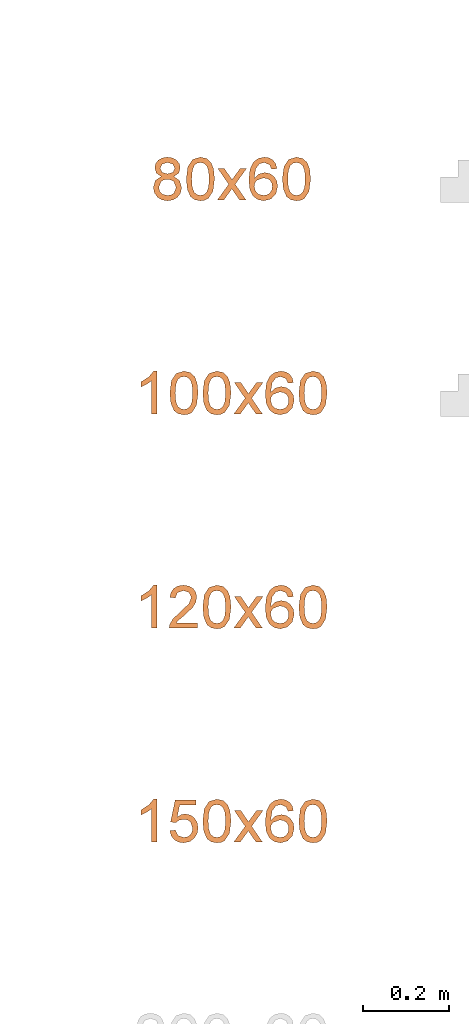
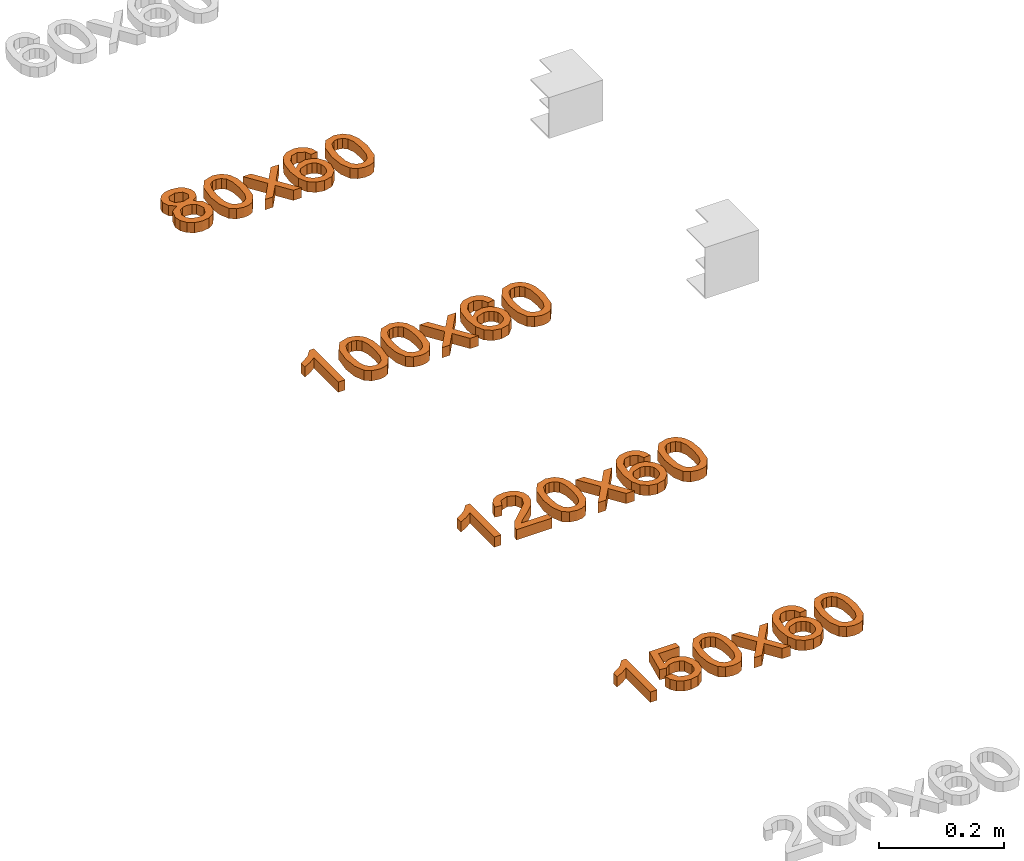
# One storey, part 45 of 71: 4 proxies.
"""IFC2X3 building model written with IfcOpenShell, lengths in millimetres."""

from ifc_helpers import new_model, entity, si_unit, converted_unit, derived_unit, direction, frame, origin, place, context, subcontext, project, spatial, polyline, outline, extrude, element, save


model = new_model("IFC2X3")

# Units and contexts
model_context = context("Model", 3, precision=0.01, world=origin(), true_north=direction((6.12303176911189e-17, 1.0)))
body_context = subcontext(model_context, "Body", "Model", "MODEL_VIEW")
ifc_project = project(units=[si_unit("LENGTHUNIT", "METRE", prefix="MILLI"), si_unit("AREAUNIT", "SQUARE_METRE"), si_unit("VOLUMEUNIT", "CUBIC_METRE"), converted_unit("PLANEANGLEUNIT", "DEGREE", entity("IfcRatioMeasure", 0.0174532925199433), si_unit("PLANEANGLEUNIT", "RADIAN"), dimensions=[0, 0, 0, 0, 0, 0, 0]), si_unit("MASSUNIT", "GRAM", prefix="KILO"), derived_unit("MASSDENSITYUNIT", [(si_unit("MASSUNIT", "GRAM", prefix="KILO"), 1), (si_unit("LENGTHUNIT", "METRE"), -3)]), si_unit("TIMEUNIT", "SECOND"), si_unit("FREQUENCYUNIT", "HERTZ"), si_unit("THERMODYNAMICTEMPERATUREUNIT", "DEGREE_CELSIUS"), derived_unit("THERMALTRANSMITTANCEUNIT", [(si_unit("MASSUNIT", "GRAM", prefix="KILO"), 1), (si_unit("THERMODYNAMICTEMPERATUREUNIT", "KELVIN"), -1), (si_unit("TIMEUNIT", "SECOND"), -3)]), derived_unit("VOLUMETRICFLOWRATEUNIT", [(si_unit("LENGTHUNIT", "METRE"), 3), (si_unit("TIMEUNIT", "SECOND"), -1)]), si_unit("ELECTRICCURRENTUNIT", "AMPERE"), si_unit("ELECTRICVOLTAGEUNIT", "VOLT"), si_unit("POWERUNIT", "WATT"), si_unit("FORCEUNIT", "NEWTON", prefix="KILO"), si_unit("ILLUMINANCEUNIT", "LUX"), si_unit("LUMINOUSFLUXUNIT", "LUMEN"), si_unit("LUMINOUSINTENSITYUNIT", "CANDELA"), derived_unit("USERDEFINED", [(si_unit("MASSUNIT", "GRAM", prefix="KILO"), -1), (si_unit("LENGTHUNIT", "METRE"), -2), (si_unit("TIMEUNIT", "SECOND"), 3), (si_unit("LUMINOUSFLUXUNIT", "LUMEN"), 1)]), derived_unit("LINEARVELOCITYUNIT", [(si_unit("LENGTHUNIT", "METRE"), 1), (si_unit("TIMEUNIT", "SECOND"), -1)]), si_unit("PRESSUREUNIT", "PASCAL"), derived_unit("USERDEFINED", [(si_unit("LENGTHUNIT", "METRE"), -2), (si_unit("MASSUNIT", "GRAM", prefix="KILO"), 1), (si_unit("TIMEUNIT", "SECOND"), -2)])], contexts=[model_context])

# Site, building, storey
site_placement = place(None, origin())
site = spatial("IfcSite", under=ifc_project, at=site_placement, Name="Default", CompositionType="ELEMENT")
building_placement = place(site_placement, origin())
building = spatial("IfcBuilding", under=site, at=building_placement, Name="Наименование здания", CompositionType="ELEMENT")
storey_placement = place(building_placement, origin())
storey = spatial("IfcBuildingStorey", under=building, at=storey_placement, Name="Этаж 01", CompositionType="ELEMENT", Elevation=0.0)

# Proxies
proxy_1_placement = place(storey_placement, origin())
element("IfcBuildingElementProxy", 1, at=proxy_1_placement, inside=storey, Name="Текст модели:100 мм Arial", ObjectType="Текст модели:100 мм Arial", context=body_context, shape_type="SweptSolid", body=[
    extrude(outline(polyline([(10.1224324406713, -11.2212127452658), (26.4477736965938, -11.2212127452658), (39.6861381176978, -0.0909413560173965), (44.6322314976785, 11.307815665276), (44.5856416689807, 23.4168603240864), (39.6073830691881, 34.8346290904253), (29.7584701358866, 44.1595584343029), (17.423605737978, 49.7956565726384), (4.9874927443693, 50.1469317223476), (-6.20047708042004, 45.7236060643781), (-14.7909119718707, 37.0359017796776), (-20.0781666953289, 21.0056847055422), (-14.5070621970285, 5.376924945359), (-28.0684052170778, 5.15563707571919), (-37.7221714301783, -2.60845010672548), (-41.5236361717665, -11.935700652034), (-41.0036870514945, -22.2232653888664), (-36.1916154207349, -32.1870777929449), (-27.1167126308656, -40.5430713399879), (-16.0503295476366, -45.8123091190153), (-5.18246445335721, -46.5706787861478), (4.38453303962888, -43.2361071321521), (11.548313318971, -36.2265209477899), (15.2516244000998, -24.0826582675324), (10.1224324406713, -11.2212127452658)]), holes=[polyline([(1.34077476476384, -28.9039041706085), (-7.53771017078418, -33.9815875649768), (-20.2415350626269, -30.0339976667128), (-28.5905650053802, -19.6902819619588), (-26.9800933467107, -9.13787919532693), (-18.1108932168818, -3.87648928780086), (-5.45128168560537, -7.82385811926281), (3.15927028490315, -18.2403048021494), (1.34077476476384, -28.9039041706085)]), polyline([(29.0262968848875, 6.56051660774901), (17.1806533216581, -1.51571690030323), (9.6849412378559, -1.27757268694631), (1.95268767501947, 2.32885586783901), (-4.46267094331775, 8.27886886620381), (-7.64161156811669, 15.3010558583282), (-4.59707955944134, 29.6929468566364), (7.31333657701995, 37.799466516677), (14.8367372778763, 37.4872096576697), (22.6595729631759, 33.8012523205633), (30.3730358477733, 25.586409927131), (32.5711030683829, 15.5727469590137), (29.0262968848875, 6.56051660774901)])]), frame((15091.8607415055, -411.654222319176, 0.0), z_axis=(0.0, 0.0, 1.0), x_axis=(-0.829266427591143, -0.558853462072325, 0.0)), (0.0, 0.0, 1.0), 20.0),
    extrude(outline(polyline([(-7.02884310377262, -33.3490673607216), (17.5323805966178, -33.3490673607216), (35.1984171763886, -27.6137612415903), (43.343984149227, -18.4876517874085), (47.0516941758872, -5.7515066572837), (46.716202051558, 4.48638208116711), (43.4465778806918, 13.0955287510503), (27.9444305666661, 25.6659118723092), (-0.314338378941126, 32.2325535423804), (-24.0296505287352, 32.367828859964), (-39.4143020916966, 28.026088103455), (-49.7293680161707, 18.9002174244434), (-54.4436715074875, 4.63998875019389), (-50.8676582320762, -14.1301059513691), (-35.4058547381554, -26.7333390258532), (-7.02884310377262, -33.3490673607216)]), holes=[polyline([(-5.77428774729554, -20.8548320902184), (-25.0157644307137, -17.3562860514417), (-36.7257089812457, -11.5717922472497), (-41.0962588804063, -4.77599682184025), (-41.9669219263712, 3.21464792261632), (-39.2244253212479, 11.2791292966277), (-32.865406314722, 17.2229259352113), (-20.9698370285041, 20.2947501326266), (-1.61768958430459, 19.7433141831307), (17.8514140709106, 16.2707701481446), (28.7803640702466, 10.7141596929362), (33.5546988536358, 3.61815959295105), (34.5599568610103, -4.47255337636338), (31.9421230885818, -12.1923199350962), (25.8471825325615, -18.1754808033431), (14.0250679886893, -21.4027476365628), (-5.77428774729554, -20.8548320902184)])]), frame((15169.7029366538, -417.512078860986, 0.0), z_axis=(0.0, 0.0, 1.0), x_axis=(0.1018515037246, -0.994799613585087, 0.0)), (0.0, 0.0, 1.0), 20.0),
    extrude(outline(polyline([(-34.5302215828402, -38.4265006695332), (-19.4225343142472, -38.4265006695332), (-0.341721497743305, -12.0616243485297), (2.478707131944, -16.1328517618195), (17.8561745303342, -38.4265006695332), (32.9638617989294, -38.4265006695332), (7.40832586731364, -1.34399555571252), (33.9448804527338, 35.3461020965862), (18.8371931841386, 35.3461020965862), (4.95577923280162, 16.1671874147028), (0.0261604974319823, 9.34910777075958), (-5.66374769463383, 17.6877663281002), (-17.8529044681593, 35.3461020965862), (-32.9605917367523, 35.3461020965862), (-7.69936140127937, -1.34399555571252), (-34.5302215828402, -38.4265006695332)])), frame((15242.5445935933, -424.908755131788, 0.0)), (0.0, 0.0, 1.0), 20.0),
    extrude(outline(polyline([(6.79275401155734, -32.5027761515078), (18.3659045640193, -32.5027761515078), (28.1525204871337, -28.8011371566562), (35.631293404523, -21.7178704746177), (40.280914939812, -11.5729874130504), (41.4130789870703, 3.2366707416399), (36.1391243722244, 16.3729018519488), (21.8599739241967, 28.8803269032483), (-1.50836821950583, 38.2054593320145), (-23.6059131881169, 41.7609274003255), (-39.9814227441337, 38.5965283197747), (-51.1650797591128, 29.9216784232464), (-57.6870671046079, 16.9457940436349), (-57.9805556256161, -0.0494879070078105), (-49.2081886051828, -14.3141019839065), (-33.6167855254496, -22.935056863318), (-20.6265742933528, -24.2502330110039), (-8.97800352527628, -20.6254922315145), (0.0919027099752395, -13.0350962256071), (5.34612034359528, -2.45330669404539), (5.85483161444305, 11.6447254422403), (-0.843339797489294, 24.991063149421), (19.7707676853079, 15.5765036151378), (28.4840991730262, 4.26766164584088), (28.3893512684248, -7.46374532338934), (19.9956250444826, -18.1936336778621), (8.63303585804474, -19.9825396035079), (6.79275401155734, -32.5027761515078)]), holes=[polyline([(-18.758671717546, 29.9549594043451), (-11.632811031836, 26.3613362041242), (-6.94154076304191, 20.2038317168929), (-5.85783236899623, 4.13761066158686), (-9.48331864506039, -3.95286412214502), (-15.1077394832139, -9.26901644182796), (-22.3091633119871, -11.5969098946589), (-30.6656585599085, -10.7226080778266), (-38.6094491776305, -7.06141592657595), (-43.863709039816, -1.22509865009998), (-46.1835287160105, 6.17768396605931), (-45.323998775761, 14.5382721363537), (-39.690117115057, 24.7221971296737), (-30.0168134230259, 30.0585493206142), (-18.758671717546, 29.9549594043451)])]), frame((15318.2025234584, -404.787517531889, 0.0), z_axis=(0.0, 0.0, 1.0), x_axis=(-0.267015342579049, 0.963692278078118, 0.0)), (0.0, 0.0, 1.0), 20.0),
    extrude(outline(polyline([(-7.02884310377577, -33.3490673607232), (17.5323805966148, -33.3490673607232), (35.1984171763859, -27.6137612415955), (43.3439841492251, -18.4876517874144), (47.0516941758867, -5.75150665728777), (46.7162020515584, 4.48638208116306), (43.4465778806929, 13.0955287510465), (27.9444305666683, 25.6659118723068), (-0.314338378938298, 32.2325535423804), (-24.0296505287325, 32.367828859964), (-39.4143020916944, 28.0260881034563), (-49.7293680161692, 18.9002174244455), (-54.4436715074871, 4.6399887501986), (-50.8676582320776, -14.1301059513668), (-35.4058547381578, -26.7333390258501), (-7.02884310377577, -33.3490673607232)]), holes=[polyline([(-5.77428774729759, -20.85483209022), (-25.0157644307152, -17.3562860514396), (-36.7257089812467, -11.5717922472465), (-41.0962588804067, -4.77599682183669), (-41.9669219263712, 3.2146479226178), (-39.2244253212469, 11.2791292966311), (-32.8654063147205, 17.2229259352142), (-20.9698370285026, 20.2947501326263), (-1.61768958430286, 19.7433141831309), (17.851414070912, 16.270770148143), (28.7803640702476, 10.7141596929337), (33.5546988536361, 3.61815959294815), (34.5599568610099, -4.47255337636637), (31.9421230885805, -12.1923199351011), (25.8471825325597, -18.1754808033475), (14.0250679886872, -21.4027476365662), (-5.77428774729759, -20.85483209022)])]), frame((15394.1600046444, -417.512078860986, 0.0), z_axis=(0.0, 0.0, 1.0), x_axis=(0.101851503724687, -0.994799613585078, 0.0)), (0.0, 0.0, 1.0), 20.0),
])
proxy_2_placement = place(storey_placement, origin())
element("IfcBuildingElementProxy", 2, at=proxy_2_placement, inside=storey, Name="Текст модели:100 мм Arial", ObjectType="Текст модели:100 мм Arial", context=body_context, shape_type="SweptSolid", body=[
    extrude(outline(polyline([(-63.8793021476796, -16.9184842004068), (36.5770080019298, -16.9184842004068), (36.5770080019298, -8.82508030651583), (23.2106288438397, 2.34626961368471), (11.4629304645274, 20.7526321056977), (-0.407395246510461, 20.7526321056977), (5.93243780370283, 7.53340574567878), (14.4059864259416, -4.36144543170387), (-63.8793021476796, -4.36144543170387), (-63.8793021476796, -16.9184842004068)])), frame((15050.6140165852, -1399.45595365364, 0.0), z_axis=(0.0, 0.0, 1.0), x_axis=(0.0, 1.0, 0.0)), (0.0, 0.0, 1.0), 20.0),
    extrude(outline(polyline([(-32.385878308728, -45.1669477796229), (-32.385878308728, -57.7239865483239), (33.5385752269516, -57.7239865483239), (32.1896745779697, -49.0664969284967), (24.5622545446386, -35.7369059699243), (8.84143061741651, -21.1810416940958), (-12.8390816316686, -0.260818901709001), (-18.2592096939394, 13.9639515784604), (-13.1456499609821, 25.4786580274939), (0.208466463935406, 30.1752848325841), (14.1266686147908, 25.5890226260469), (19.4119066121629, 12.90935652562), (31.9689453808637, 14.4789863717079), (28.9247218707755, 26.6252235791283), (22.3426998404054, 35.4973110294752), (12.5662358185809, 40.9235704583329), (-0.0613136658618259, 42.7323236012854), (-12.7808336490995, 40.7212353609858), (-22.5389035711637, 34.6879706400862), (-28.746912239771, 25.6748617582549), (-30.8162484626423, 14.724241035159), (-28.5844310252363, 2.81712712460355), (-21.1654774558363, -9.49465698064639), (-3.17604789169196, -26.6992716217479), (11.2694517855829, -38.7780637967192), (16.9348345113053, -45.1669477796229), (-32.385878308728, -45.1669477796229)])), frame((15129.3244132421, -1405.611269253, 0.0), z_axis=(0.0, 0.0, -1.0), x_axis=(-1.0, 0.0, 0.0)), (0.0, 0.0, -1.0), 20.0),
    extrude(outline(polyline([(-7.0288431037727, -33.3490673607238), (17.5323805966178, -33.3490673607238), (35.1984171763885, -27.6137612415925), (43.3439841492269, -18.4876517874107), (47.051694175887, -5.75150665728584), (46.7162020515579, 4.48638208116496), (43.4465778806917, 13.0955287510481), (27.9444305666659, 25.665911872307), (-0.31433837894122, 32.2325535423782), (-24.0296505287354, 32.3678288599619), (-39.4143020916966, 28.0260881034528), (-49.7293680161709, 18.9002174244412), (-54.4436715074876, 4.6399887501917), (-50.8676582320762, -14.1301059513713), (-35.4058547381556, -26.7333390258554), (-7.0288431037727, -33.3490673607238)]), holes=[polyline([(-5.77428774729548, -20.8548320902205), (-25.0157644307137, -17.3562860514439), (-36.7257089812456, -11.5717922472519), (-41.0962588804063, -4.77599682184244), (-41.9669219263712, 3.21464792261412), (-39.2244253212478, 11.2791292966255), (-32.8654063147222, 17.2229259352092), (-20.9698370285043, 20.2947501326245), (-1.61768958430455, 19.7433141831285), (17.8514140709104, 16.2707701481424), (28.7803640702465, 10.7141596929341), (33.5546988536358, 3.61815959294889), (34.5599568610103, -4.47255337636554), (31.9421230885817, -12.1923199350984), (25.8471825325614, -18.1754808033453), (14.0250679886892, -21.402747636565), (-5.77428774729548, -20.8548320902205)])]), frame((15208.158867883, -1417.51207886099, 0.0), z_axis=(0.0, 0.0, 1.0), x_axis=(0.1018515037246, -0.994799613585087, 0.0)), (0.0, 0.0, 1.0), 20.0),
    extrude(outline(polyline([(-34.5302215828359, -38.4265006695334), (-19.4225343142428, -38.4265006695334), (-0.341721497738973, -12.0616243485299), (2.47870713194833, -16.1328517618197), (17.8561745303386, -38.4265006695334), (32.9638617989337, -38.4265006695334), (7.40832586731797, -1.34399555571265), (33.9448804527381, 35.3461020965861), (18.837193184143, 35.3461020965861), (4.95577923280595, 16.1671874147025), (0.0261604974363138, 9.34910777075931), (-5.6637476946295, 17.6877663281), (-17.852904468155, 35.3461020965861), (-32.960591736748, 35.3461020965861), (-7.69936140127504, -1.34399555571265), (-34.5302215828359, -38.4265006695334)])), frame((15281.0005248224, -1424.90875513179, 0.0)), (0.0, 0.0, 1.0), 20.0),
    extrude(outline(polyline([(6.79275401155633, -32.5027761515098), (18.3659045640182, -32.5027761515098), (28.1525204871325, -28.8011371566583), (35.6312934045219, -21.7178704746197), (40.280914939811, -11.5729874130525), (41.4130789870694, 3.23667074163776), (36.1391243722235, 16.3729018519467), (21.8599739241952, 28.8803269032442), (-1.50836821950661, 38.2054593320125), (-23.6059131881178, 41.7609274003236), (-39.9814227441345, 38.5965283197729), (-51.1650797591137, 29.9216784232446), (-57.6870671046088, 16.9457940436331), (-57.9805556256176, -0.0494879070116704), (-49.2081886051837, -14.3141019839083), (-33.6167855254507, -22.9350568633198), (-20.6265742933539, -24.2502330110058), (-8.97800352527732, -20.6254922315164), (0.0919027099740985, -13.035096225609), (5.34612034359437, -2.4533066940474), (5.85483161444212, 11.6447254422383), (-0.843339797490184, 24.991063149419), (19.7707676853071, 15.5765036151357), (28.4840991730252, 4.2676616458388), (28.3893512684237, -7.46374532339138), (19.9956250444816, -18.1936336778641), (8.63303585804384, -19.98253960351), (6.79275401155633, -32.5027761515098)]), holes=[polyline([(-18.758671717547, 29.9549594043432), (-11.6328110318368, 26.3613362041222), (-6.94154076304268, 20.2038317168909), (-5.85783236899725, 4.13761066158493), (-9.48331864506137, -3.95286412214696), (-15.1077394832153, -9.26901644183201), (-22.3091633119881, -11.5969098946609), (-30.6656585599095, -10.7226080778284), (-38.609449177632, -7.06141592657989), (-43.8637090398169, -1.22509865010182), (-46.1835287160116, 6.17768396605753), (-45.323998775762, 14.5382721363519), (-39.6901171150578, 24.7221971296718), (-30.0168134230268, 30.0585493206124), (-18.758671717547, 29.9549594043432)])]), frame((15356.6584546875, -1404.78751753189, 0.0), z_axis=(0.0, 0.0, 1.0), x_axis=(-0.267015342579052, 0.963692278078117, 0.0)), (0.0, 0.0, 1.0), 20.0),
    extrude(outline(polyline([(-7.02884310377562, -33.3490673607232), (17.5323805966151, -33.3490673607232), (35.1984171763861, -27.6137612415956), (43.3439841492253, -18.4876517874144), (47.0516941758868, -5.75150665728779), (46.7162020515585, 4.48638208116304), (43.446577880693, 13.0955287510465), (27.9444305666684, 25.6659118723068), (-0.314338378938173, 32.2325535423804), (-24.0296505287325, 32.367828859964), (-39.4143020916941, 28.0260881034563), (-49.7293680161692, 18.9002174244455), (-54.4436715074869, 4.63998875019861), (-50.8676582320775, -14.1301059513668), (-35.4058547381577, -26.7333390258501), (-7.02884310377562, -33.3490673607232)]), holes=[polyline([(-5.77428774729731, -20.85483209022), (-25.015764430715, -17.3562860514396), (-36.7257089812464, -11.5717922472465), (-41.0962588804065, -4.7759968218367), (-41.9669219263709, 3.21464792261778), (-39.2244253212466, 11.279129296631), (-32.8654063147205, 17.2229259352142), (-20.9698370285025, 20.2947501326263), (-1.61768958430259, 19.7433141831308), (17.851414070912, 16.270770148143), (28.7803640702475, 10.7141596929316), (33.5546988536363, 3.61815959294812), (34.5599568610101, -4.4725533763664), (31.9421230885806, -12.1923199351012), (25.8471825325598, -18.1754808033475), (14.0250679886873, -21.4027476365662), (-5.77428774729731, -20.85483209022)])]), frame((15432.6159358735, -1417.51207886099, 0.0), z_axis=(0.0, 0.0, 1.0), x_axis=(0.101851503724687, -0.994799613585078, 0.0)), (0.0, 0.0, 1.0), 20.0),
])
proxy_3_placement = place(storey_placement, origin())
element("IfcBuildingElementProxy", 3, at=proxy_3_placement, inside=storey, Name="Текст модели:100 мм Arial", ObjectType="Текст модели:100 мм Arial", context=body_context, shape_type="SweptSolid", body=[
    extrude(outline(polyline([(-63.8793021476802, -16.9184842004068), (36.5770080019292, -16.9184842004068), (36.5770080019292, -8.82508030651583), (23.2106288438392, 2.34626961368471), (11.4629304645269, 20.7526321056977), (-0.407395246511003, 20.7526321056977), (5.93243780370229, 7.53340574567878), (14.4059864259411, -4.36144543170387), (-63.8793021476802, -4.36144543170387), (-63.8793021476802, -16.9184842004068)])), frame((15050.6140165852, -1899.45595365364, 0.0), z_axis=(0.0, 0.0, 1.0), x_axis=(0.0, 1.0, 0.0)), (0.0, 0.0, 1.0), 20.0),
    extrude(outline(polyline([(3.8143956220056, -37.254895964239), (15.7323946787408, -37.254895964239), (26.1588137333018, -33.0579698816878), (34.2921694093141, -25.0537205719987), (39.3309783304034, -13.631750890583), (40.2219288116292, 1.43409098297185), (34.3991305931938, 14.6815107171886), (25.5350217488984, 23.1481891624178), (13.9054384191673, 28.2770976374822), (0.912111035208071, 29.4702838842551), (-10.7159258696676, 25.7768606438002), (-19.7427074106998, 18.0989984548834), (-24.9322687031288, 7.33886785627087), (-25.5937300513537, -2.21124798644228), (-22.6370240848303, -12.2793380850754), (-47.9924930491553, 0.020488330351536), (-38.0977082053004, 37.2324069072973), (-50.2330599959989, 40.4592412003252), (-62.7370428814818, -6.56524698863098), (-15.5021967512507, -30.4943712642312), (-10.7584434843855, -18.7623737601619), (-14.421629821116, -10.4922324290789), (-13.6981616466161, 0.72266773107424), (-9.987381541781, 9.35727561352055), (-4.32553373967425, 14.6878856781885), (11.4370636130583, 15.94006870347), (19.7481682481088, 12.2772427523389), (25.4355726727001, 6.4063224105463), (28.0665145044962, -1.27212018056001), (27.2082313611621, -10.3575128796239), (19.6530635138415, -21.9256319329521), (5.5243109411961, -24.7161898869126), (3.8143956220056, -37.254895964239)])), frame((15132.3790792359, -1923.39170175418, 0.0), z_axis=(0.0, 0.0, 1.0), x_axis=(0.256974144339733, -0.966418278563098, 0.0)), (0.0, 0.0, 1.0), 20.0),
    extrude(outline(polyline([(-7.0288431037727, -33.3490673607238), (17.5323805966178, -33.3490673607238), (35.1984171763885, -27.6137612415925), (43.3439841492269, -18.4876517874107), (47.051694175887, -5.75150665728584), (46.7162020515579, 4.48638208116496), (43.4465778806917, 13.0955287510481), (27.9444305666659, 25.665911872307), (-0.31433837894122, 32.2325535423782), (-24.0296505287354, 32.3678288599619), (-39.4143020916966, 28.0260881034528), (-49.7293680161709, 18.9002174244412), (-54.4436715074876, 4.6399887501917), (-50.8676582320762, -14.1301059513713), (-35.4058547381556, -26.7333390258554), (-7.0288431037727, -33.3490673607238)]), holes=[polyline([(-5.77428774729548, -20.8548320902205), (-25.0157644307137, -17.3562860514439), (-36.7257089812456, -11.5717922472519), (-41.0962588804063, -4.77599682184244), (-41.9669219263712, 3.21464792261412), (-39.2244253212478, 11.2791292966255), (-32.8654063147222, 17.2229259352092), (-20.9698370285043, 20.2947501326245), (-1.61768958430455, 19.7433141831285), (17.8514140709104, 16.2707701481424), (28.7803640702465, 10.7141596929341), (33.5546988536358, 3.61815959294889), (34.5599568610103, -4.47255337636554), (31.9421230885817, -12.1923199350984), (25.8471825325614, -18.1754808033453), (14.0250679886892, -21.402747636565), (-5.77428774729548, -20.8548320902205)])]), frame((15208.158867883, -1917.51207886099, 0.0), z_axis=(0.0, 0.0, 1.0), x_axis=(0.1018515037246, -0.994799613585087, 0.0)), (0.0, 0.0, 1.0), 20.0),
    extrude(outline(polyline([(-34.5302215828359, -38.4265006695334), (-19.4225343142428, -38.4265006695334), (-0.341721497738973, -12.0616243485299), (2.47870713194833, -16.1328517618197), (17.8561745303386, -38.4265006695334), (32.9638617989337, -38.4265006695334), (7.40832586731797, -1.34399555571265), (33.9448804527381, 35.3461020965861), (18.837193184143, 35.3461020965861), (4.95577923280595, 16.1671874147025), (0.0261604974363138, 9.34910777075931), (-5.6637476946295, 17.6877663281), (-17.852904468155, 35.3461020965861), (-32.960591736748, 35.3461020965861), (-7.69936140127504, -1.34399555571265), (-34.5302215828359, -38.4265006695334)])), frame((15281.0005248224, -1924.90875513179, 0.0)), (0.0, 0.0, 1.0), 20.0),
    extrude(outline(polyline([(6.79275401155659, -32.5027761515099), (18.3659045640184, -32.5027761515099), (28.1525204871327, -28.8011371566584), (35.6312934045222, -21.7178704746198), (40.2809149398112, -11.5729874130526), (41.4130789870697, 3.23667074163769), (36.1391243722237, 16.3729018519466), (21.8599739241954, 28.8803269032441), (-1.50836821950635, 38.2054593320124), (-23.6059131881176, 41.7609274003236), (-39.9814227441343, 38.5965283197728), (-51.1650797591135, 29.9216784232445), (-57.6870671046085, 16.9457940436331), (-57.9805556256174, -0.0494879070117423), (-49.2081886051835, -14.3141019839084), (-33.6167855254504, -22.9350568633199), (-20.6265742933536, -24.2502330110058), (-8.97800352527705, -20.6254922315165), (0.0919027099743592, -13.0350962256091), (5.34612034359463, -2.45330669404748), (5.85483161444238, 11.6447254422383), (-0.843339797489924, 24.9910631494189), (19.7707676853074, 15.5765036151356), (28.4840991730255, 4.26766164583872), (28.3893512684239, -7.46374532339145), (19.9956250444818, -18.1936336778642), (8.6330358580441, -19.98253960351), (6.79275401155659, -32.5027761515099)]), holes=[polyline([(-18.7586717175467, 29.9549594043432), (-11.6328110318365, 26.3613362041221), (-6.94154076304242, 20.2038317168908), (-5.85783236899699, 4.13761066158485), (-9.48331864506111, -3.95286412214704), (-15.1077394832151, -9.26901644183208), (-22.3091633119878, -11.5969098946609), (-30.6656585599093, -10.7226080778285), (-38.6094491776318, -7.06141592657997), (-43.8637090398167, -1.22509865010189), (-46.1835287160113, 6.17768396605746), (-45.3239987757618, 14.5382721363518), (-39.6901171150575, 24.7221971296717), (-30.0168134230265, 30.0585493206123), (-18.7586717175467, 29.9549594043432)])]), frame((15356.6584546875, -1904.78751753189, 0.0), z_axis=(0.0, 0.0, 1.0), x_axis=(-0.267015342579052, 0.963692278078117, 0.0)), (0.0, 0.0, 1.0), 20.0),
    extrude(outline(polyline([(-7.02884310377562, -33.3490673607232), (17.5323805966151, -33.3490673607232), (35.1984171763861, -27.6137612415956), (43.3439841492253, -18.4876517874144), (47.0516941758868, -5.75150665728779), (46.7162020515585, 4.48638208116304), (43.446577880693, 13.0955287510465), (27.9444305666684, 25.6659118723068), (-0.314338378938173, 32.2325535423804), (-24.0296505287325, 32.367828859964), (-39.4143020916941, 28.0260881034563), (-49.7293680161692, 18.9002174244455), (-54.4436715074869, 4.63998875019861), (-50.8676582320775, -14.1301059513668), (-35.4058547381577, -26.7333390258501), (-7.02884310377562, -33.3490673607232)]), holes=[polyline([(-5.77428774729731, -20.85483209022), (-25.015764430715, -17.3562860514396), (-36.7257089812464, -11.5717922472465), (-41.0962588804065, -4.7759968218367), (-41.9669219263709, 3.21464792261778), (-39.2244253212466, 11.279129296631), (-32.8654063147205, 17.2229259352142), (-20.9698370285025, 20.2947501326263), (-1.61768958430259, 19.7433141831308), (17.851414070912, 16.270770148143), (28.7803640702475, 10.7141596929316), (33.5546988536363, 3.61815959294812), (34.5599568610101, -4.4725533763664), (31.9421230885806, -12.1923199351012), (25.8471825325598, -18.1754808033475), (14.0250679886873, -21.4027476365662), (-5.77428774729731, -20.85483209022)])]), frame((15432.6159358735, -1917.51207886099, 0.0), z_axis=(0.0, 0.0, 1.0), x_axis=(0.101851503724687, -0.994799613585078, 0.0)), (0.0, 0.0, 1.0), 20.0),
])
proxy_4_placement = place(storey_placement, origin())
element("IfcBuildingElementProxy", 4, at=proxy_4_placement, inside=storey, Name="Текст модели:100 мм Arial", ObjectType="Текст модели:100 мм Arial", context=body_context, shape_type="SweptSolid", body=[
    extrude(outline(polyline([(-63.8793021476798, -16.9184842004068), (36.5770080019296, -16.9184842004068), (36.5770080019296, -8.82508030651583), (23.2106288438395, 2.34626961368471), (11.4629304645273, 20.7526321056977), (-0.407395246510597, 20.7526321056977), (5.93243780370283, 7.53340574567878), (14.4059864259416, -4.36144543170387), (-63.8793021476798, -4.36144543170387), (-63.8793021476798, -16.9184842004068)])), frame((15050.6140165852, -899.455953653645, 0.0), z_axis=(0.0, 0.0, 1.0), x_axis=(0.0, 1.0, 0.0)), (0.0, 0.0, 1.0), 20.0),
    extrude(outline(polyline([(-7.02884310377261, -33.3490673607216), (17.5323805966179, -33.3490673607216), (35.1984171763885, -27.6137612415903), (43.343984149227, -18.4876517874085), (47.0516941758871, -5.75150665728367), (46.716202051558, 4.48638208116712), (43.4465778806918, 13.0955287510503), (27.9444305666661, 25.6659118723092), (-0.314338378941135, 32.2325535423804), (-24.0296505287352, 32.367828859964), (-39.4143020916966, 28.026088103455), (-49.7293680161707, 18.9002174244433), (-54.4436715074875, 4.63998875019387), (-50.8676582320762, -14.1301059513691), (-35.4058547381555, -26.7333390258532), (-7.02884310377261, -33.3490673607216)]), holes=[polyline([(-5.77428774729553, -20.8548320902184), (-25.0157644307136, -17.3562860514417), (-36.7257089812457, -11.5717922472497), (-41.0962588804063, -4.77599682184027), (-41.9669219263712, 3.21464792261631), (-39.2244253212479, 11.2791292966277), (-32.865406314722, 17.2229259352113), (-20.9698370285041, 20.2947501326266), (-1.61768958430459, 19.7433141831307), (17.8514140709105, 16.2707701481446), (28.7803640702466, 10.7141596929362), (33.5546988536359, 3.61815959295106), (34.5599568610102, -4.47255337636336), (31.9421230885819, -12.1923199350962), (25.8471825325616, -18.1754808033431), (14.0250679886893, -21.4027476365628), (-5.77428774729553, -20.8548320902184)])]), frame((15131.2470054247, -917.51207886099, 0.0), z_axis=(0.0, 0.0, 1.0), x_axis=(0.1018515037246, -0.994799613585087, 0.0)), (0.0, 0.0, 1.0), 20.0),
    extrude(outline(polyline([(-7.02884310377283, -33.3490673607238), (17.5323805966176, -33.3490673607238), (35.1984171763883, -27.6137612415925), (43.3439841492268, -18.4876517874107), (47.0516941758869, -5.75150665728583), (46.7162020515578, 4.48638208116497), (43.4465778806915, 13.0955287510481), (27.9444305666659, 25.665911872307), (-0.314338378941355, 32.2325535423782), (-24.0296505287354, 32.3678288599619), (-39.4143020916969, 28.0260881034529), (-49.7293680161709, 18.9002174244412), (-54.4436715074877, 4.63998875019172), (-50.8676582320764, -14.1301059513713), (-35.4058547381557, -26.7333390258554), (-7.02884310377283, -33.3490673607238)]), holes=[polyline([(-5.77428774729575, -20.8548320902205), (-25.0157644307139, -17.3562860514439), (-36.7257089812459, -11.5717922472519), (-41.0962588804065, -4.77599682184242), (-41.9669219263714, 3.21464792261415), (-39.2244253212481, 11.2791292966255), (-32.8654063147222, 17.2229259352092), (-20.9698370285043, 20.2947501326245), (-1.61768958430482, 19.7433141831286), (17.8514140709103, 16.2707701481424), (28.7803640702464, 10.7141596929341), (33.5546988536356, 3.6181595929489), (34.55995686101, -4.47255337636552), (31.9421230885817, -12.1923199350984), (25.8471825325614, -18.1754808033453), (14.0250679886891, -21.4027476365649), (-5.77428774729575, -20.8548320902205)])]), frame((15208.158867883, -917.51207886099, 0.0), z_axis=(0.0, 0.0, 1.0), x_axis=(0.1018515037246, -0.994799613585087, 0.0)), (0.0, 0.0, 1.0), 20.0),
    extrude(outline(polyline([(-34.5302215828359, -38.4265006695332), (-19.4225343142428, -38.4265006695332), (-0.341721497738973, -12.0616243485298), (2.47870713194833, -16.1328517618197), (17.8561745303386, -38.4265006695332), (32.9638617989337, -38.4265006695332), (7.40832586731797, -1.34399555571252), (33.9448804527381, 35.3461020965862), (18.837193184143, 35.3461020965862), (4.95577923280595, 16.1671874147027), (0.0261604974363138, 9.34910777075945), (-5.6637476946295, 17.6877663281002), (-17.852904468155, 35.3461020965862), (-32.960591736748, 35.3461020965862), (-7.69936140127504, -1.34399555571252), (-34.5302215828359, -38.4265006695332)])), frame((15281.0005248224, -924.908755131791, 0.0)), (0.0, 0.0, 1.0), 20.0),
    extrude(outline(polyline([(6.79275401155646, -32.5027761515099), (18.3659045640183, -32.5027761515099), (28.1525204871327, -28.8011371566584), (35.631293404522, -21.7178704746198), (40.2809149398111, -11.5729874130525), (41.4130789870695, 3.23667074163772), (36.1391243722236, 16.3729018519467), (21.8599739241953, 28.8803269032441), (-1.50836821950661, 38.2054593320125), (-23.6059131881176, 41.7609274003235), (-39.9814227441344, 38.5965283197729), (-51.1650797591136, 29.9216784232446), (-57.6870671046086, 16.9457940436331), (-57.9805556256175, -0.0494879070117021), (-49.2081886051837, -14.3141019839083), (-33.6167855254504, -22.9350568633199), (-20.6265742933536, -24.2502330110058), (-8.97800352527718, -20.6254922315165), (0.0919027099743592, -13.0350962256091), (5.34612034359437, -2.4533066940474), (5.85483161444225, 11.6447254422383), (-0.843339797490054, 24.991063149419), (19.7707676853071, 15.5765036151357), (28.4840991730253, 4.26766164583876), (28.3893512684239, -7.46374532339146), (19.9956250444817, -18.1936336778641), (8.63303585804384, -19.98253960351), (6.79275401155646, -32.5027761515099)]), holes=[polyline([(-18.7586717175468, 29.9549594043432), (-11.6328110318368, 26.3613362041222), (-6.94154076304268, 20.2038317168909), (-5.85783236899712, 4.13761066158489), (-9.48331864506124, -3.952864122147), (-15.1077394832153, -9.269016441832), (-22.3091633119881, -11.5969098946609), (-30.6656585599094, -10.7226080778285), (-38.609449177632, -7.06141592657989), (-43.8637090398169, -1.22509865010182), (-46.1835287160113, 6.17768396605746), (-45.3239987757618, 14.5382721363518), (-39.6901171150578, 24.7221971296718), (-30.0168134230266, 30.0585493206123), (-18.7586717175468, 29.9549594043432)])]), frame((15356.6584546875, -904.787517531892, 0.0), z_axis=(0.0, 0.0, 1.0), x_axis=(-0.267015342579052, 0.963692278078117, 0.0)), (0.0, 0.0, 1.0), 20.0),
    extrude(outline(polyline([(-7.02884310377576, -33.3490673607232), (17.5323805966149, -33.3490673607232), (35.1984171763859, -27.6137612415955), (43.3439841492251, -18.4876517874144), (47.0516941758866, -5.75150665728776), (46.7162020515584, 4.48638208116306), (43.4465778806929, 13.0955287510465), (27.9444305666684, 25.6659118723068), (-0.314338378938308, 32.2325535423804), (-24.0296505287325, 32.367828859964), (-39.4143020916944, 28.0260881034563), (-49.7293680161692, 18.9002174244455), (-54.4436715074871, 4.63998875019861), (-50.8676582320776, -14.1301059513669), (-35.4058547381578, -26.7333390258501), (-7.02884310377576, -33.3490673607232)]), holes=[polyline([(-5.77428774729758, -20.85483209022), (-25.0157644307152, -17.3562860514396), (-36.7257089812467, -11.5717922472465), (-41.0962588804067, -4.7759968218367), (-41.9669219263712, 3.2146479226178), (-39.2244253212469, 11.2791292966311), (-32.8654063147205, 17.2229259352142), (-20.9698370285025, 20.2947501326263), (-1.61768958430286, 19.7433141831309), (17.8514140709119, 16.270770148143), (28.7803640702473, 10.7141596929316), (33.5546988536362, 3.61815959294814), (34.5599568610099, -4.47255337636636), (31.9421230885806, -12.1923199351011), (25.8471825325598, -18.1754808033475), (14.0250679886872, -21.4027476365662), (-5.77428774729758, -20.85483209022)])]), frame((15432.6159358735, -917.51207886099, 0.0), z_axis=(0.0, 0.0, 1.0), x_axis=(0.101851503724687, -0.994799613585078, 0.0)), (0.0, 0.0, 1.0), 20.0),
])

save(model, "model.ifc")
